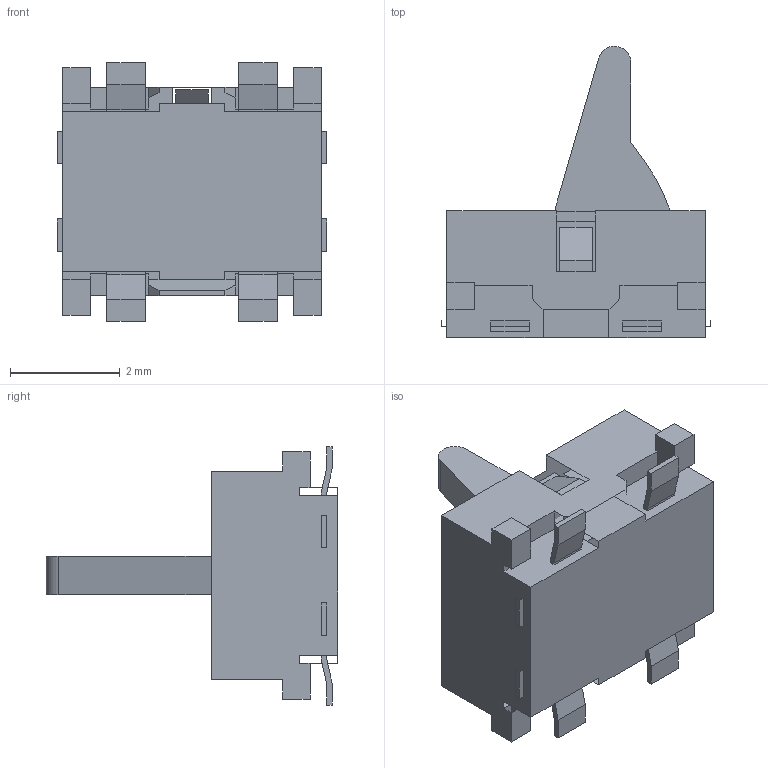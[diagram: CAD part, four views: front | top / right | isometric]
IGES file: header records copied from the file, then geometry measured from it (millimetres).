
Start section:  PTC IGES file: ndt016-g1a-adct_.igs
Global section: file name: ndt016-g1a-adct_.igs; native system: Pro/ENGINEER by Parametric Technology Corporation; preprocessor: 2008230; author: RD_MAX; organization: Unknown; date: 20090228.105951; units: millimetre
Bounding box: 4.9 x 5.3 x 4.7 mm (x, y, z)
Surface area: 103.8 mm2 (no closed solid volume)
Topology: 0 solids, 0 shells, 92 faces, 578 edges, 638 vertices
Faces by surface type: bspline 90, revolution 2
